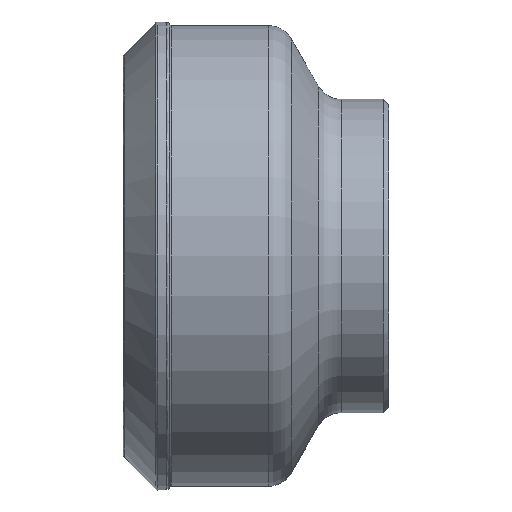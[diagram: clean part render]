
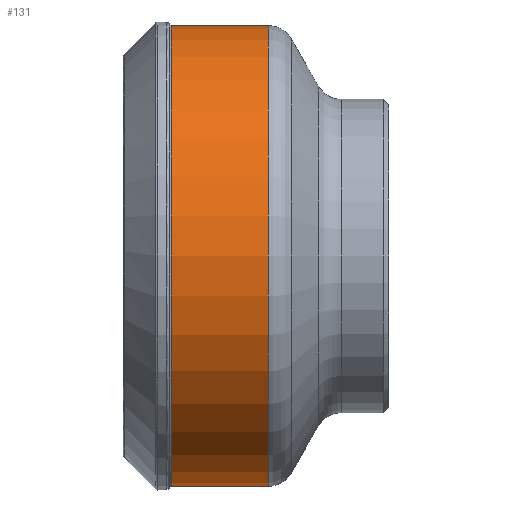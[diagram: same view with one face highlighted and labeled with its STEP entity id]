
A CAD part, front view. The second image highlights one B-rep face of the part: STEP entity #131.
In plain terms, the highlighted cylindrical face has radius 44.1 mm (diameter 88.2 mm), a full revolution.
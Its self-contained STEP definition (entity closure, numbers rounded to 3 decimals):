
#81=CYLINDRICAL_SURFACE('',#342,44.1);
#86=FACE_BOUND('',#164,.T.);
#87=FACE_BOUND('',#165,.T.);
#131=ADVANCED_FACE('',(#86,#87),#81,.T.);
#164=EDGE_LOOP('',(#212));
#165=EDGE_LOOP('',(#213));
#212=ORIENTED_EDGE('',*,*,#284,.T.);
#213=ORIENTED_EDGE('',*,*,#285,.T.);
#260=VERTEX_POINT('',#495);
#261=VERTEX_POINT('',#497);
#284=EDGE_CURVE('',#260,#260,#308,.T.);
#285=EDGE_CURVE('',#261,#261,#309,.T.);
#308=CIRCLE('',#340,44.1);
#309=CIRCLE('',#341,44.1);
#340=AXIS2_PLACEMENT_3D('',#494,#394,#395);
#341=AXIS2_PLACEMENT_3D('',#496,#396,#397);
#342=AXIS2_PLACEMENT_3D('',#498,#398,#399);
#394=DIRECTION('',(1.,0.,0.));
#395=DIRECTION('',(0.,0.,1.));
#396=DIRECTION('',(-1.,0.,0.));
#397=DIRECTION('',(0.,0.,1.));
#398=DIRECTION('',(1.,0.,0.));
#399=DIRECTION('',(0.,0.,-1.));
#494=CARTESIAN_POINT('',(9.195,0.,0.));
#495=CARTESIAN_POINT('',(9.195,0.,44.1));
#496=CARTESIAN_POINT('',(27.773,0.,0.));
#497=CARTESIAN_POINT('',(27.773,0.,44.1));
#498=CARTESIAN_POINT('',(0.,0.,0.));
